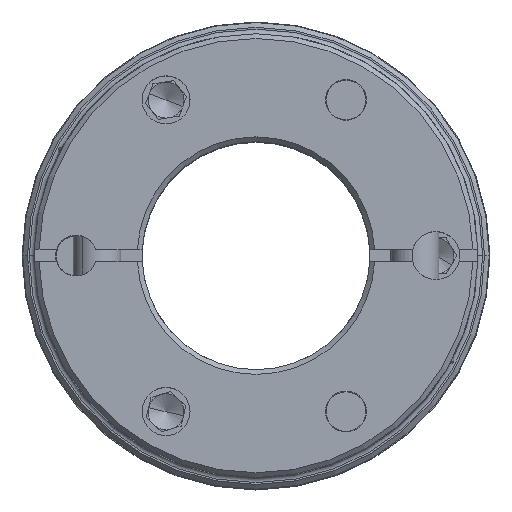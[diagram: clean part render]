
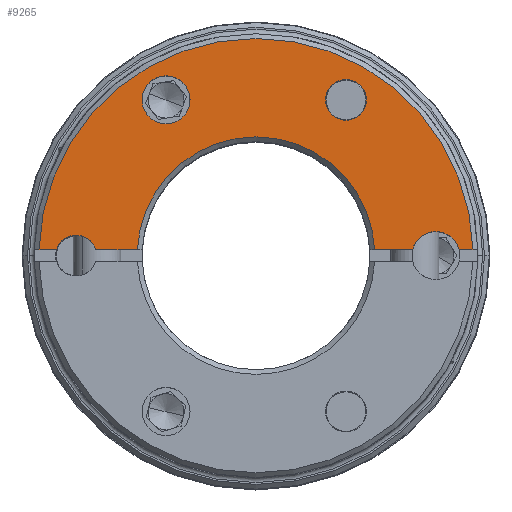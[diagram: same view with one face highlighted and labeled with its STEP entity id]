
A CAD part, top view. The second image highlights one B-rep face of the part: STEP entity #9265.
In plain terms, the highlighted planar face has unit normal (0, 0, 1).
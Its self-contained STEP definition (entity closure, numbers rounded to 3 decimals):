
#35 = EDGE_CURVE ( 'NONE', #12653, #14011, #1992, .T. ) ;
#380 = CIRCLE ( 'NONE', #14554, 3.4 ) ;
#398 = DIRECTION ( 'NONE',  ( -1., 0., 0. ) ) ;
#495 = FACE_BOUND ( 'NONE', #5557, .T. ) ;
#558 = VERTEX_POINT ( 'NONE', #4500 ) ;
#825 = DIRECTION ( 'NONE',  ( -1., 0., 0. ) ) ;
#933 = CARTESIAN_POINT ( 'NONE',  ( -30., 0., 33.85 ) ) ;
#1071 = AXIS2_PLACEMENT_3D ( 'NONE', #933, #18945, #825 ) ;
#1164 = CARTESIAN_POINT ( 'NONE',  ( -15., 25.981, 33.85 ) ) ;
#1509 = CARTESIAN_POINT ( 'NONE',  ( -15., 25.981, 33.85 ) ) ;
#1830 = DIRECTION ( 'NONE',  ( 0., 0., -1. ) ) ;
#1992 = LINE ( 'NONE', #13539, #7807 ) ;
#2106 = DIRECTION ( 'NONE',  ( 0., 0., -1. ) ) ;
#2105 = CIRCLE ( 'NONE', #1071, 3.4 ) ;
#2605 = VERTEX_POINT ( 'NONE', #18816 ) ;
#2648 = CARTESIAN_POINT ( 'NONE',  ( -19.775, 1., 33.85 ) ) ;
#2785 = CIRCLE ( 'NONE', #5527, 4. ) ;
#2978 = PLANE ( 'NONE',  #15316 ) ;
#3073 = DIRECTION ( 'NONE',  ( 1., 0., 0. ) ) ;
#3185 = CIRCLE ( 'NONE', #13854, 19.8 ) ;
#3613 = DIRECTION ( 'NONE',  ( 1., 0., 0. ) ) ;
#4061 = VERTEX_POINT ( 'NONE', #16842 ) ;
#4113 = VERTEX_POINT ( 'NONE', #16948 ) ;
#4152 = DIRECTION ( 'NONE',  ( 1., 0., 0. ) ) ;
#4500 = CARTESIAN_POINT ( 'NONE',  ( 26.127, 1., 33.85 ) ) ;
#4532 = CARTESIAN_POINT ( 'NONE',  ( -33.25, 1., 33.85 ) ) ;
#4673 = AXIS2_PLACEMENT_3D ( 'NONE', #16870, #2106, #8691 ) ;
#4732 = EDGE_LOOP ( 'NONE', ( #5671, #9318, #5321, #8745, #9658, #20441, #14345, #19466 ) ) ;
#4738 = DIRECTION ( 'NONE',  ( 0.5, -0.866, 0. ) ) ;
#5321 = ORIENTED_EDGE ( 'NONE', *, *, #14686, .T. ) ;
#5527 = AXIS2_PLACEMENT_3D ( 'NONE', #1164, #20919, #7756 ) ;
#5557 = EDGE_LOOP ( 'NONE', ( #13446, #11779 ) ) ;
#5671 = ORIENTED_EDGE ( 'NONE', *, *, #17140, .T. ) ;
#6545 = VERTEX_POINT ( 'NONE', #6633 ) ;
#6633 = CARTESIAN_POINT ( 'NONE',  ( 36.186, 1., 33.85 ) ) ;
#7189 = EDGE_CURVE ( 'NONE', #9066, #6545, #12538, .T. ) ;
#7413 = FACE_BOUND ( 'NONE', #13302, .T. ) ;
#7515 = CARTESIAN_POINT ( 'NONE',  ( -39., 1., 33.85 ) ) ;
#7756 = DIRECTION ( 'NONE',  ( 0.5, -0.866, 0. ) ) ;
#7807 = VECTOR ( 'NONE', #8678, 1000. ) ;
#8089 = CARTESIAN_POINT ( 'NONE',  ( -26.75, 1., 33.85 ) ) ;
#8492 = EDGE_CURVE ( 'NONE', #17047, #558, #19215, .T. ) ;
#8586 = EDGE_CURVE ( 'NONE', #4061, #4113, #9331, .T. ) ;
#8678 = DIRECTION ( 'NONE',  ( 1., 0., 0. ) ) ;
#8691 = DIRECTION ( 'NONE',  ( -1., 0., 0. ) ) ;
#8745 = ORIENTED_EDGE ( 'NONE', *, *, #21002, .T. ) ;
#8746 = ORIENTED_EDGE ( 'NONE', *, *, #8586, .T. ) ;
#8785 = CARTESIAN_POINT ( 'NONE',  ( 0., 0., 33.85 ) ) ;
#8822 = DIRECTION ( 'NONE',  ( 0., 0., -1. ) ) ;
#9066 = VERTEX_POINT ( 'NONE', #11626 ) ;
#9182 = CARTESIAN_POINT ( 'NONE',  ( -39., 1., 33.85 ) ) ;
#9265 = ADVANCED_FACE ( 'NONE', ( #7413, #495, #14511 ), #2978, .T. ) ;
#9318 = ORIENTED_EDGE ( 'NONE', *, *, #35, .T. ) ;
#9331 = CIRCLE ( 'NONE', #14838, 4. ) ;
#9658 = ORIENTED_EDGE ( 'NONE', *, *, #19282, .T. ) ;
#10096 = VECTOR ( 'NONE', #3073, 1000. ) ;
#10742 = LINE ( 'NONE', #7515, #10096 ) ;
#11211 = CARTESIAN_POINT ( 'NONE',  ( 0., 0., 33.85 ) ) ;
#11229 = CARTESIAN_POINT ( 'NONE',  ( -39., 1., 33.85 ) ) ;
#11231 = CIRCLE ( 'NONE', #4673, 4. ) ;
#11626 = CARTESIAN_POINT ( 'NONE',  ( 33.873, 1., 33.85 ) ) ;
#11701 = DIRECTION ( 'NONE',  ( 0., 0., 1. ) ) ;
#11779 = ORIENTED_EDGE ( 'NONE', *, *, #12589, .T. ) ;
#11882 = DIRECTION ( 'NONE',  ( -1., 0., 0. ) ) ;
#11920 = EDGE_CURVE ( 'NONE', #558, #9066, #11231, .T. ) ;
#12538 = LINE ( 'NONE', #9182, #20725 ) ;
#12589 = EDGE_CURVE ( 'NONE', #13405, #2605, #14140, .T. ) ;
#12653 = VERTEX_POINT ( 'NONE', #20803 ) ;
#12914 = CIRCLE ( 'NONE', #16684, 36.2 ) ;
#13302 = EDGE_LOOP ( 'NONE', ( #15849, #8746 ) ) ;
#13405 = VERTEX_POINT ( 'NONE', #18205 ) ;
#13446 = ORIENTED_EDGE ( 'NONE', *, *, #19091, .T. ) ;
#13539 = CARTESIAN_POINT ( 'NONE',  ( -39., 1., 33.85 ) ) ;
#13854 = AXIS2_PLACEMENT_3D ( 'NONE', #11211, #19610, #17879 ) ;
#14011 = VERTEX_POINT ( 'NONE', #4532 ) ;
#14140 = CIRCLE ( 'NONE', #16186, 3.4 ) ;
#14251 = DIRECTION ( 'NONE',  ( 1., 0., 0. ) ) ;
#14345 = ORIENTED_EDGE ( 'NONE', *, *, #11920, .T. ) ;
#14509 = VECTOR ( 'NONE', #14251, 1000. ) ;
#14511 = FACE_OUTER_BOUND ( 'NONE', #4732, .T. ) ;
#14554 = AXIS2_PLACEMENT_3D ( 'NONE', #18128, #1830, #11882 ) ;
#14686 = EDGE_CURVE ( 'NONE', #14011, #15671, #2105, .T. ) ;
#14838 = AXIS2_PLACEMENT_3D ( 'NONE', #1509, #19529, #4738 ) ;
#15178 = CARTESIAN_POINT ( 'NONE',  ( 15., 25.981, 33.85 ) ) ;
#15316 = AXIS2_PLACEMENT_3D ( 'NONE', #16019, #15703, #4152 ) ;
#15671 = VERTEX_POINT ( 'NONE', #8089 ) ;
#15703 = DIRECTION ( 'NONE',  ( 0., 0., 1. ) ) ;
#15849 = ORIENTED_EDGE ( 'NONE', *, *, #18227, .T. ) ;
#16019 = CARTESIAN_POINT ( 'NONE',  ( 0., 0., 33.85 ) ) ;
#16186 = AXIS2_PLACEMENT_3D ( 'NONE', #15178, #8822, #398 ) ;
#16549 = VERTEX_POINT ( 'NONE', #2648 ) ;
#16684 = AXIS2_PLACEMENT_3D ( 'NONE', #8785, #11701, #3613 ) ;
#16842 = CARTESIAN_POINT ( 'NONE',  ( -11., 25.981, 33.85 ) ) ;
#16870 = CARTESIAN_POINT ( 'NONE',  ( 30., 0., 33.85 ) ) ;
#16948 = CARTESIAN_POINT ( 'NONE',  ( -19., 25.981, 33.85 ) ) ;
#17047 = VERTEX_POINT ( 'NONE', #17953 ) ;
#17140 = EDGE_CURVE ( 'NONE', #6545, #12653, #12914, .T. ) ;
#17879 = DIRECTION ( 'NONE',  ( 1., 0., 0. ) ) ;
#17953 = CARTESIAN_POINT ( 'NONE',  ( 19.775, 1., 33.85 ) ) ;
#18128 = CARTESIAN_POINT ( 'NONE',  ( 15., 25.981, 33.85 ) ) ;
#18205 = CARTESIAN_POINT ( 'NONE',  ( 18.4, 25.981, 33.85 ) ) ;
#18227 = EDGE_CURVE ( 'NONE', #4113, #4061, #2785, .T. ) ;
#18816 = CARTESIAN_POINT ( 'NONE',  ( 11.6, 25.981, 33.85 ) ) ;
#18945 = DIRECTION ( 'NONE',  ( 0., 0., -1. ) ) ;
#19091 = EDGE_CURVE ( 'NONE', #2605, #13405, #380, .T. ) ;
#19215 = LINE ( 'NONE', #11229, #14509 ) ;
#19282 = EDGE_CURVE ( 'NONE', #16549, #17047, #3185, .T. ) ;
#19466 = ORIENTED_EDGE ( 'NONE', *, *, #7189, .T. ) ;
#19529 = DIRECTION ( 'NONE',  ( 0., 0., -1. ) ) ;
#19610 = DIRECTION ( 'NONE',  ( 0., 0., -1. ) ) ;
#20441 = ORIENTED_EDGE ( 'NONE', *, *, #8492, .T. ) ;
#20725 = VECTOR ( 'NONE', #20940, 1000. ) ;
#20803 = CARTESIAN_POINT ( 'NONE',  ( -36.186, 1., 33.85 ) ) ;
#20919 = DIRECTION ( 'NONE',  ( 0., 0., -1. ) ) ;
#20940 = DIRECTION ( 'NONE',  ( 1., 0., 0. ) ) ;
#21002 = EDGE_CURVE ( 'NONE', #15671, #16549, #10742, .T. ) ;
